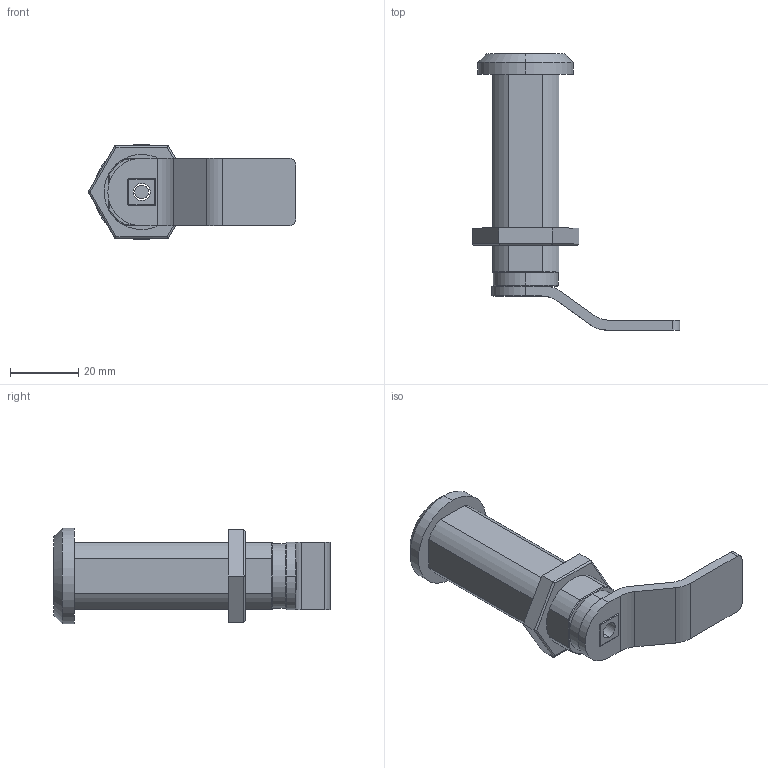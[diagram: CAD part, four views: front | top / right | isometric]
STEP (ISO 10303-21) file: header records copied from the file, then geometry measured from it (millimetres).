
FILE_DESCRIPTION (( 'STEP AP214' ), '1' );
FILE_NAME ('1.4023 Yksikielinen lukko 45.STEP', '2026-03-10T12:36:56', ( '' ), ( '' ), 'SwSTEP 2.0', 'SolidWorks 2025', '' );
FILE_SCHEMA (( 'AUTOMOTIVE_DESIGN' ));
Length unit declared in the file: millimetre
Products named in the file (1): 1.4023 Yksikielinen lukko 45
Bounding box: 60.69 x 80.9 x 28 mm (x, y, z)
Surface area: 11547.8 mm2 (no closed solid volume)
Topology: 0 solids, 6 shells, 97 faces, 243 edges, 150 vertices
Faces by surface type: cylinder 46, plane 39, torus 6, sphere 4, cone 2
Entity records: 3921 total; most frequent: CARTESIAN_POINT 545, DIRECTION 513, ORIENTED_EDGE 450, EDGE_CURVE 239, AXIS2_PLACEMENT_3D 190, VERTEX_POINT 150, VECTOR 133, LINE 133
